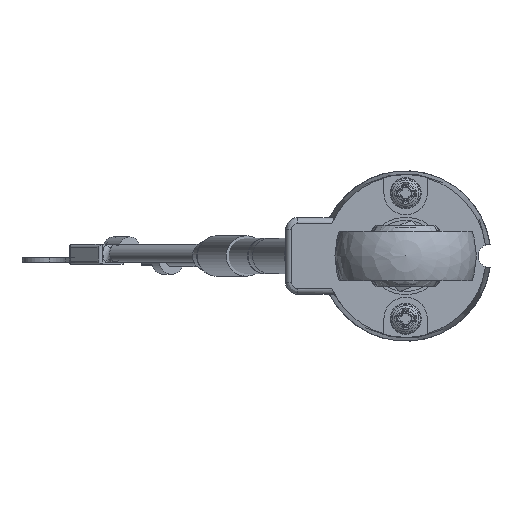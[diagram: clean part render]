
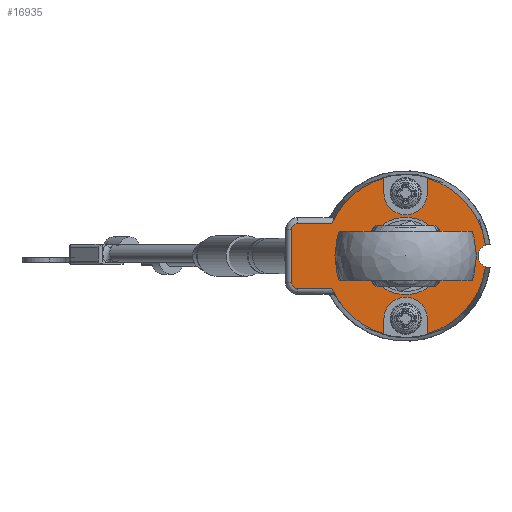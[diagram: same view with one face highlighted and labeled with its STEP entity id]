
A CAD part, left-side view. The second image highlights one B-rep face of the part: STEP entity #16935.
In plain terms, the highlighted planar face has unit normal (-1, 0, 0).
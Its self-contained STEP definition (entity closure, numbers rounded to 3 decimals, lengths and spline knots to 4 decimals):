
#1690=ELLIPSE('',#18047,0.03,0.03);
#1691=ELLIPSE('',#18051,0.03,0.03);
#1706=FACE_BOUND('',#2909,.T.);
#1841=PLANE('',#18053);
#2139=FACE_OUTER_BOUND('',#2908,.T.);
#2908=EDGE_LOOP('',(#10745,#10746,#10747,#10748,#10749,#10750,#10751,#10752,
#10753,#10754,#10755,#10756,#10757,#10758,#10759,#10760));
#2909=EDGE_LOOP('',(#10761));
#3724=LINE('',#23337,#4346);
#3725=LINE('',#23369,#4347);
#3726=LINE('',#23412,#4348);
#3727=LINE('',#23419,#4349);
#3728=LINE('',#23423,#4350);
#3729=LINE('',#23431,#4351);
#3730=LINE('',#23434,#4352);
#4346=VECTOR('',#19778,0.3937);
#4347=VECTOR('',#19787,0.3937);
#4348=VECTOR('',#19794,0.3937);
#4349=VECTOR('',#19801,0.3937);
#4350=VECTOR('',#19804,0.3937);
#4351=VECTOR('',#19811,0.3937);
#4352=VECTOR('',#19814,0.3937);
#4940=CIRCLE('',#18016,0.105);
#4953=CIRCLE('',#18054,0.41);
#4954=CIRCLE('',#18055,0.41);
#4955=CIRCLE('',#18056,0.11);
#4956=CIRCLE('',#18057,0.41);
#4957=CIRCLE('',#18058,0.06);
#4958=CIRCLE('',#18059,0.41);
#4959=CIRCLE('',#18060,0.11);
#5599=VERTEX_POINT('',#23178);
#5622=VERTEX_POINT('',#23321);
#5623=VERTEX_POINT('',#23323);
#5624=VERTEX_POINT('',#23363);
#5625=VERTEX_POINT('',#23367);
#5626=VERTEX_POINT('',#23395);
#5627=VERTEX_POINT('',#23399);
#5628=VERTEX_POINT('',#23414);
#5629=VERTEX_POINT('',#23416);
#5630=VERTEX_POINT('',#23418);
#5631=VERTEX_POINT('',#23420);
#5632=VERTEX_POINT('',#23422);
#5633=VERTEX_POINT('',#23424);
#5634=VERTEX_POINT('',#23426);
#5635=VERTEX_POINT('',#23428);
#5636=VERTEX_POINT('',#23430);
#5637=VERTEX_POINT('',#23432);
#7726=EDGE_CURVE('',#5599,#5599,#4940,.T.);
#7764=EDGE_CURVE('',#5623,#5622,#3724,.T.);
#7766=EDGE_CURVE('',#5622,#5624,#1690,.T.);
#7768=EDGE_CURVE('',#5624,#5625,#3725,.T.);
#7770=EDGE_CURVE('',#5625,#5626,#1691,.T.);
#7772=EDGE_CURVE('',#5626,#5627,#3726,.T.);
#7773=EDGE_CURVE('',#5627,#5628,#4953,.T.);
#7774=EDGE_CURVE('',#5629,#5623,#4954,.T.);
#7775=EDGE_CURVE('',#5629,#5630,#3727,.T.);
#7776=EDGE_CURVE('',#5630,#5631,#4955,.T.);
#7777=EDGE_CURVE('',#5631,#5632,#3728,.T.);
#7778=EDGE_CURVE('',#5633,#5632,#4956,.T.);
#7779=EDGE_CURVE('',#5633,#5634,#4957,.T.);
#7780=EDGE_CURVE('',#5635,#5634,#4958,.T.);
#7781=EDGE_CURVE('',#5635,#5636,#3729,.T.);
#7782=EDGE_CURVE('',#5636,#5637,#4959,.T.);
#7783=EDGE_CURVE('',#5637,#5628,#3730,.T.);
#10745=ORIENTED_EDGE('',*,*,#7773,.F.);
#10746=ORIENTED_EDGE('',*,*,#7772,.F.);
#10747=ORIENTED_EDGE('',*,*,#7770,.F.);
#10748=ORIENTED_EDGE('',*,*,#7768,.F.);
#10749=ORIENTED_EDGE('',*,*,#7766,.F.);
#10750=ORIENTED_EDGE('',*,*,#7764,.F.);
#10751=ORIENTED_EDGE('',*,*,#7774,.F.);
#10752=ORIENTED_EDGE('',*,*,#7775,.T.);
#10753=ORIENTED_EDGE('',*,*,#7776,.T.);
#10754=ORIENTED_EDGE('',*,*,#7777,.T.);
#10755=ORIENTED_EDGE('',*,*,#7778,.F.);
#10756=ORIENTED_EDGE('',*,*,#7779,.T.);
#10757=ORIENTED_EDGE('',*,*,#7780,.F.);
#10758=ORIENTED_EDGE('',*,*,#7781,.T.);
#10759=ORIENTED_EDGE('',*,*,#7782,.T.);
#10760=ORIENTED_EDGE('',*,*,#7783,.T.);
#10761=ORIENTED_EDGE('',*,*,#7726,.T.);
#16935=ADVANCED_FACE('',(#2139,#1706),#1841,.T.);
#18016=AXIS2_PLACEMENT_3D('',#23179,#19703,#19704);
#18047=AXIS2_PLACEMENT_3D('',#23365,#19781,#19782);
#18051=AXIS2_PLACEMENT_3D('',#23397,#19790,#19791);
#18053=AXIS2_PLACEMENT_3D('',#23413,#19795,#19796);
#18054=AXIS2_PLACEMENT_3D('',#23415,#19797,#19798);
#18055=AXIS2_PLACEMENT_3D('',#23417,#19799,#19800);
#18056=AXIS2_PLACEMENT_3D('',#23421,#19802,#19803);
#18057=AXIS2_PLACEMENT_3D('',#23425,#19805,#19806);
#18058=AXIS2_PLACEMENT_3D('',#23427,#19807,#19808);
#18059=AXIS2_PLACEMENT_3D('',#23429,#19809,#19810);
#18060=AXIS2_PLACEMENT_3D('',#23433,#19812,#19813);
#19703=DIRECTION('center_axis',(1.,0.,0.));
#19704=DIRECTION('ref_axis',(0.,0.,1.));
#19778=DIRECTION('',(0.,1.,0.));
#19781=DIRECTION('center_axis',(1.,0.,0.));
#19782=DIRECTION('ref_axis',(0.,0.,
-1.));
#19787=DIRECTION('',(0.,0.,1.));
#19790=DIRECTION('center_axis',(1.,0.,0.));
#19791=DIRECTION('ref_axis',(0.,0.,
1.));
#19794=DIRECTION('',(0.,-1.,0.));
#19795=DIRECTION('center_axis',(-1.,0.,0.));
#19796=DIRECTION('ref_axis',(0.,0.,1.));
#19797=DIRECTION('center_axis',(1.,0.,0.));
#19798=DIRECTION('ref_axis',(0.,1.,0.));
#19799=DIRECTION('center_axis',(1.,0.,0.));
#19800=DIRECTION('ref_axis',(0.,1.,0.));
#19801=DIRECTION('',(0.,0.,1.));
#19802=DIRECTION('center_axis',(1.,0.,0.));
#19803=DIRECTION('ref_axis',(0.,-1.,0.));
#19804=DIRECTION('',(0.,0.,-1.));
#19805=DIRECTION('center_axis',(1.,0.,0.));
#19806=DIRECTION('ref_axis',(0.,1.,0.));
#19807=DIRECTION('center_axis',(1.,0.,0.));
#19808=DIRECTION('ref_axis',(0.,0.,-1.));
#19809=DIRECTION('center_axis',(1.,0.,0.));
#19810=DIRECTION('ref_axis',(0.,1.,0.));
#19811=DIRECTION('',(0.,0.,-1.));
#19812=DIRECTION('center_axis',(1.,0.,0.));
#19813=DIRECTION('ref_axis',(0.,1.,0.));
#19814=DIRECTION('',(0.,0.,1.));
#23178=CARTESIAN_POINT('',(-0.2209,0.,-0.105));
#23179=CARTESIAN_POINT('Origin',(-0.2209,0.,0.));
#23321=CARTESIAN_POINT('',(-0.2209,0.55,-0.1649));
#23323=CARTESIAN_POINT('',(-0.2209,0.3754,-0.1649));
#23337=CARTESIAN_POINT('',(-0.2209,0.2825,-0.1649));
#23363=CARTESIAN_POINT('',(-0.2209,0.58,-0.1349));
#23365=CARTESIAN_POINT('Origin',(-0.2209,0.55,-0.1349));
#23367=CARTESIAN_POINT('',(-0.2209,0.58,0.1349));
#23369=CARTESIAN_POINT('',(-0.2209,0.58,-0.044));
#23395=CARTESIAN_POINT('',(-0.2209,0.55,0.1649));
#23397=CARTESIAN_POINT('Origin',(-0.2209,0.55,0.1349));
#23399=CARTESIAN_POINT('',(-0.2209,0.3754,0.1649));
#23412=CARTESIAN_POINT('',(-0.2209,0.2825,0.1649));
#23413=CARTESIAN_POINT('Origin',(-0.2209,0.205,0.));
#23414=CARTESIAN_POINT('',(-0.2209,0.11,0.395));
#23415=CARTESIAN_POINT('Origin',(-0.2209,0.,0.));
#23416=CARTESIAN_POINT('',(-0.2209,0.11,-0.395));
#23417=CARTESIAN_POINT('Origin',(-0.2209,0.,0.));
#23418=CARTESIAN_POINT('',(-0.2209,0.11,-0.3193));
#23419=CARTESIAN_POINT('',(-0.2209,0.11,-0.1596));
#23420=CARTESIAN_POINT('',(-0.2209,-0.11,-0.3193));
#23421=CARTESIAN_POINT('Origin',(-0.2209,0.,-0.3193));
#23422=CARTESIAN_POINT('',(-0.2209,-0.11,-0.395));
#23423=CARTESIAN_POINT('',(-0.2209,-0.11,-0.2243));
#23424=CARTESIAN_POINT('',(-0.2209,-0.4062,-0.0556));
#23425=CARTESIAN_POINT('Origin',(-0.2209,0.,0.));
#23426=CARTESIAN_POINT('',(-0.2209,-0.4062,0.0556));
#23427=CARTESIAN_POINT('Origin',(-0.2209,-0.4289,0.));
#23428=CARTESIAN_POINT('',(-0.2209,-0.11,0.395));
#23429=CARTESIAN_POINT('Origin',(-0.2209,0.,0.));
#23430=CARTESIAN_POINT('',(-0.2209,-0.11,0.3193));
#23431=CARTESIAN_POINT('',(-0.2209,-0.11,0.1596));
#23432=CARTESIAN_POINT('',(-0.2209,0.11,0.3193));
#23433=CARTESIAN_POINT('Origin',(-0.2209,0.,0.3193));
#23434=CARTESIAN_POINT('',(-0.2209,0.11,0.2243));
